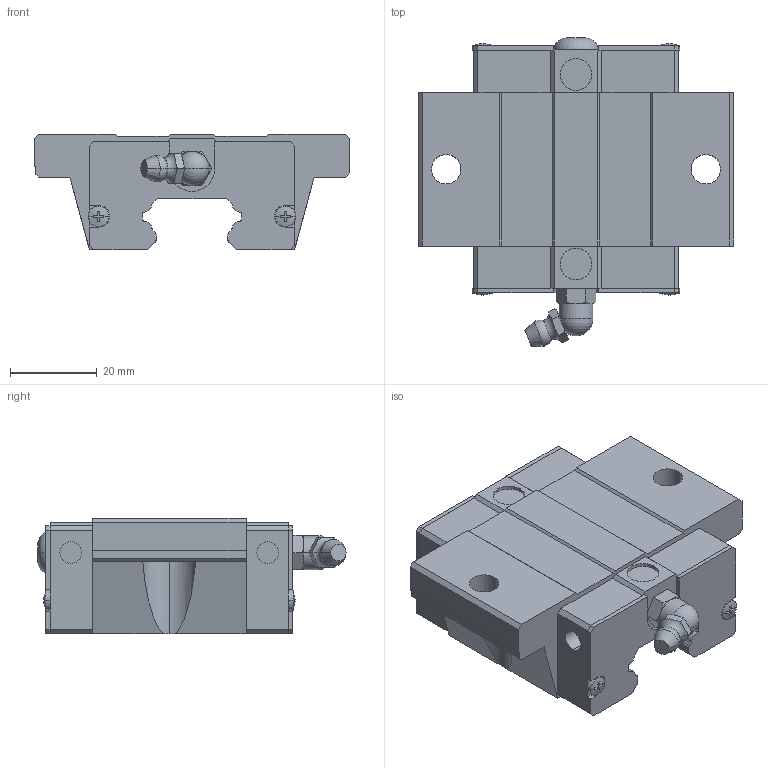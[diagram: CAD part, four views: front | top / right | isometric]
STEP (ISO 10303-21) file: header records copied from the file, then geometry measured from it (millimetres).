
FILE_DESCRIPTION(('no description'),'unknown implementation level');
FILE_NAME('QEW25SC_Z0_H_SS_26.stp',' ',('HIWIN GmbH'),('CADClick - KiM GmbH - www.kimweb.de'),'unknown preprocess','ACIS','unknown authorization');
FILE_SCHEMA(('automotive_design'));
Length unit declared in the file: millimetre
Products named in the file (1): QEW25SC Z0 H SS
Bounding box: 73 x 71.21 x 26.8 mm (x, y, z)
Volume: 67492.7 mm3; surface area: 15728.1 mm2
Topology: 1 solids, 1 shells, 328 faces, 899 edges, 581 vertices
Faces by surface type: plane 214, cylinder 68, cone 26, torus 18, sphere 2
Entity records: 20578 total; most frequent: CARTESIAN_POINT 2319, STYLED_ITEM 1807, PRESENTATION_STYLE_ASSIGNMENT 1807, COLOUR_RGB 1807, ORIENTED_EDGE 1794, DIRECTION 1654, EDGE_CURVE 897, CURVE_STYLE 897
